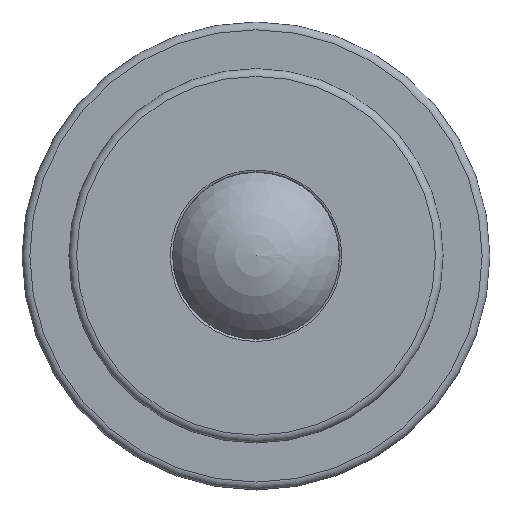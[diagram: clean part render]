
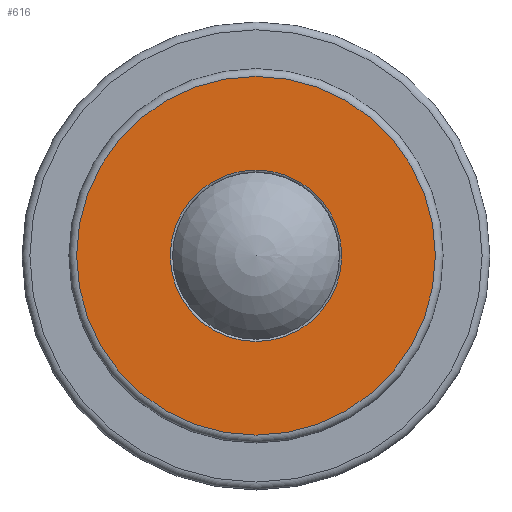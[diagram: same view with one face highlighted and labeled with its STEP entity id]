
A CAD part, top view. The second image highlights one B-rep face of the part: STEP entity #616.
In plain terms, the highlighted planar face has unit normal (0, 0, 1).
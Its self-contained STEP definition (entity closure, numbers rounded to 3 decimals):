
#122=FACE_BOUND('',#230,.T.);
#165=FACE_OUTER_BOUND('',#229,.T.);
#229=EDGE_LOOP('',(#500));
#230=EDGE_LOOP('',(#501));
#294=CIRCLE('',#685,11.);
#295=CIRCLE('',#687,23.);
#346=VERTEX_POINT('',#1032);
#347=VERTEX_POINT('',#1035);
#408=EDGE_CURVE('',#346,#346,#294,.T.);
#409=EDGE_CURVE('',#347,#347,#295,.T.);
#500=ORIENTED_EDGE('',*,*,#409,.F.);
#501=ORIENTED_EDGE('',*,*,#408,.T.);
#585=PLANE('',#686);
#616=ADVANCED_FACE('',(#165,#122),#585,.T.);
#685=AXIS2_PLACEMENT_3D('',#1033,#835,#836);
#686=AXIS2_PLACEMENT_3D('',#1034,#837,#838);
#687=AXIS2_PLACEMENT_3D('',#1036,#839,#840);
#835=DIRECTION('center_axis',(0.,0.,-1.));
#836=DIRECTION('ref_axis',(0.,1.,0.));
#837=DIRECTION('center_axis',(0.,0.,1.));
#838=DIRECTION('ref_axis',(1.,0.,0.));
#839=DIRECTION('center_axis',(0.,0.,-1.));
#840=DIRECTION('ref_axis',(0.,1.,0.));
#1032=CARTESIAN_POINT('',(0.,11.,55.));
#1033=CARTESIAN_POINT('Origin',(0.,0.,55.));
#1034=CARTESIAN_POINT('Origin',(0.,17.,55.));
#1035=CARTESIAN_POINT('',(0.,23.,55.));
#1036=CARTESIAN_POINT('Origin',(0.,0.,55.));
